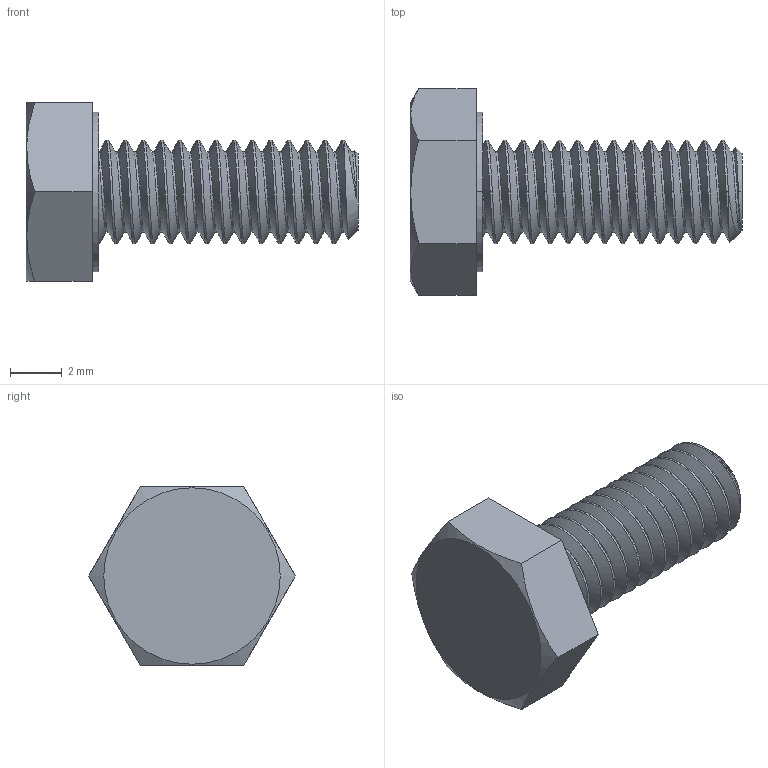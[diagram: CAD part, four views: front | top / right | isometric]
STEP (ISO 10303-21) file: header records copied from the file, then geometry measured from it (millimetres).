
FILE_DESCRIPTION (( 'STEP AP203' ), '1' );
FILE_NAME ('2813-0004-0010.STEP', '2023-03-21T14:28:01', ( '' ), ( '' ), 'SwSTEP 2.0', 'SolidWorks 2016', '' );
FILE_SCHEMA (( 'CONFIG_CONTROL_DESIGN' ));
Length unit declared in the file: millimetre
Products named in the file (1): 2813-0004-0010
Bounding box: 12.8 x 7.97 x 6.9 mm (x, y, z)
Volume: 211 mm3; surface area: 336.3 mm2
Topology: 1 solids, 1 shells, 48 faces, 131 edges, 87 vertices
Faces by surface type: cylinder 31, plane 10, cone 4, bspline 3
Entity records: 3434 total; most frequent: CARTESIAN_POINT 2344, ORIENTED_EDGE 262, DIRECTION 160, EDGE_CURVE 131, VERTEX_POINT 87, AXIS2_PLACEMENT_3D 57, EDGE_LOOP 50, FACE_OUTER_BOUND 48
